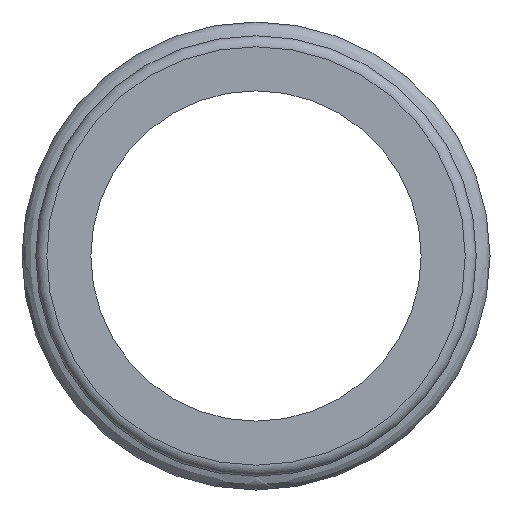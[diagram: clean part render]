
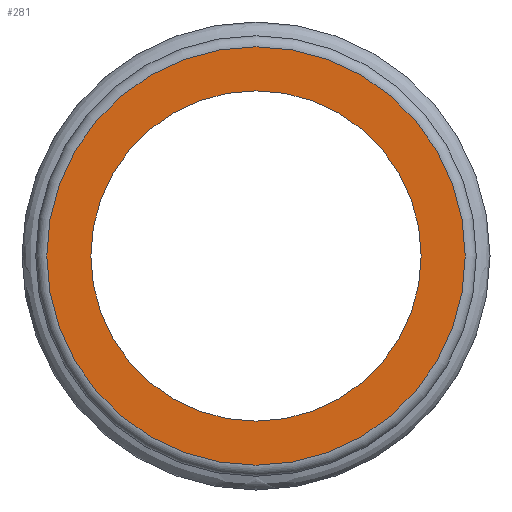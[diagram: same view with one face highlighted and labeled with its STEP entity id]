
A CAD part, left-side view. The second image highlights one B-rep face of the part: STEP entity #281.
In plain terms, the highlighted planar face has unit normal (-1, 0, 0).
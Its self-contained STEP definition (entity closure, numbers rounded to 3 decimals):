
#227=CARTESIAN_POINT('',(-34.0,0.,3.8));
#228=VERTEX_POINT('',#227);
#229=CARTESIAN_POINT('',(-34.0,0.0,0.0));
#230=DIRECTION('',(1.0,0.0,0.0));
#231=DIRECTION('',(0.0,0.0,-1.0));
#232=AXIS2_PLACEMENT_3D('',#229,#230,#231);
#233=CIRCLE('',#232,3.8);
#234=EDGE_CURVE('',#228,#228,#233,.T.);
#262=CARTESIAN_POINT('',(-34.0,0.0,0.0));
#263=DIRECTION('',(1.0,0.0,0.0));
#264=DIRECTION('',(0.0,0.0,-1.0));
#265=AXIS2_PLACEMENT_3D('',#262,#263,#264);
#266=PLANE('',#265);
#267=ORIENTED_EDGE('',*,*,#234,.F.);
#268=EDGE_LOOP('',(#267));
#269=FACE_OUTER_BOUND('',#268,.T.);
#270=CARTESIAN_POINT('',(-34.0,0.,3.));
#271=VERTEX_POINT('',#270);
#272=CARTESIAN_POINT('',(-34.0,0.0,0.0));
#273=DIRECTION('',(1.0,0.0,0.0));
#274=DIRECTION('',(0.0,0.0,-1.0));
#275=AXIS2_PLACEMENT_3D('',#272,#273,#274);
#276=CIRCLE('',#275,3.);
#277=EDGE_CURVE('',#271,#271,#276,.T.);
#278=ORIENTED_EDGE('',*,*,#277,.T.);
#279=EDGE_LOOP('',(#278));
#280=FACE_BOUND('',#279,.T.);
#281=ADVANCED_FACE('',(#269,#280),#266,.F.);
